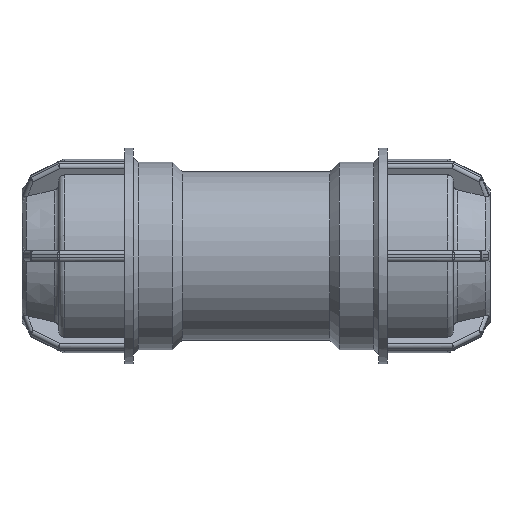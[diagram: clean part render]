
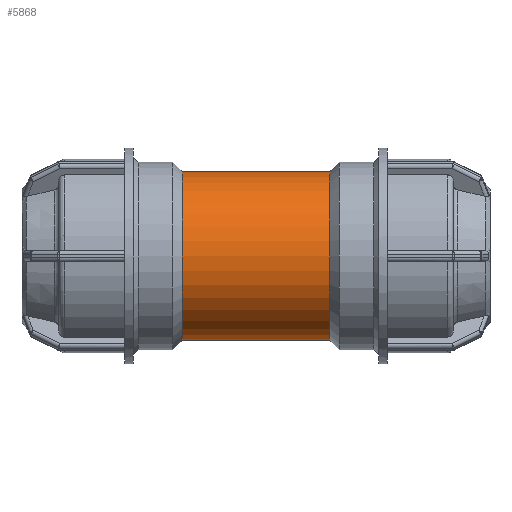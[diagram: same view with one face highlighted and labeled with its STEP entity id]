
A CAD part, front view. The second image highlights one B-rep face of the part: STEP entity #5868.
In plain terms, the highlighted cylindrical face has radius 36 mm (diameter 72 mm), a full revolution.
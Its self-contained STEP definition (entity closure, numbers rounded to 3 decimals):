
#1047=B_SPLINE_CURVE_WITH_KNOTS('',3,(#8914,#8915,#8916,#8917,#8918,#8919,
#8920,#8921,#8922,#8923,#8924,#8925,#8926,#8927,#8928,#8929,#8930,#8931,
#8932,#8933,#8934,#8935,#8936,#8937,#8938,#8939,#8940,#8941,#8942,#8943,
#8944,#8945,#8946,#8947,#8948,#8949,#8950,#8951,#8952,#8953,#8954,#8955,
#8956,#8957,#8958,#8959,#8960,#8961,#8962,#8963,#8964,#8965,#8966,#8967,
#8968,#8969,#8970,#8971,#8972,#8973,#8974,#8975,#8976,#8977,#8978,#8979),
 .UNSPECIFIED.,.T.,.F.,(4,2,2,2,2,2,2,2,2,2,2,2,2,2,2,2,2,2,2,2,2,2,2,2,
2,2,2,2,2,2,2,2,4),(0.,0.458,0.917,1.375,
1.833,2.287,2.741,3.195,3.649,
4.103,4.557,5.011,5.465,5.923,
6.381,6.84,7.298,7.756,8.215,
8.673,9.131,9.585,10.039,10.493,
10.947,11.401,11.855,12.309,12.763,
13.221,13.679,14.138,14.596),
 .UNSPECIFIED.);
#1229=FACE_BOUND('',#1680,.T.);
#1230=FACE_BOUND('',#1681,.T.);
#1269=FACE_OUTER_BOUND('',#1679,.T.);
#1679=EDGE_LOOP('',(#3924));
#1680=EDGE_LOOP('',(#3925));
#1681=EDGE_LOOP('',(#3926));
#2129=CIRCLE('',#6281,36.);
#2130=CIRCLE('',#6282,36.);
#2474=VERTEX_POINT('',#8909);
#2475=VERTEX_POINT('',#8911);
#2476=VERTEX_POINT('',#8913);
#3013=EDGE_CURVE('',#2474,#2474,#2129,.T.);
#3014=EDGE_CURVE('',#2475,#2475,#2130,.T.);
#3015=EDGE_CURVE('',#2476,#2476,#1047,.T.);
#3924=ORIENTED_EDGE('',*,*,#3013,.F.);
#3925=ORIENTED_EDGE('',*,*,#3014,.T.);
#3926=ORIENTED_EDGE('',*,*,#3015,.F.);
#5746=CYLINDRICAL_SURFACE('',#6280,36.);
#5868=ADVANCED_FACE('',(#1269,#1229,#1230),#5746,.T.);
#6280=AXIS2_PLACEMENT_3D('',#8908,#7037,#7038);
#6281=AXIS2_PLACEMENT_3D('',#8910,#7039,#7040);
#6282=AXIS2_PLACEMENT_3D('',#8912,#7041,#7042);
#7037=DIRECTION('center_axis',(1.,0.,0.));
#7038=DIRECTION('ref_axis',(0.,1.,0.));
#7039=DIRECTION('center_axis',(1.,0.,0.));
#7040=DIRECTION('ref_axis',(0.,0.,-1.));
#7041=DIRECTION('center_axis',(1.,0.,0.));
#7042=DIRECTION('ref_axis',(0.,0.,-1.));
#8908=CARTESIAN_POINT('Origin',(15.8,0.,0.));
#8909=CARTESIAN_POINT('',(31.6,36.,0.));
#8910=CARTESIAN_POINT('Origin',(31.6,0.,0.));
#8911=CARTESIAN_POINT('',(-31.6,36.,0.));
#8912=CARTESIAN_POINT('Origin',(-31.6,0.,0.));
#8913=CARTESIAN_POINT('',(0.,27.426,23.319));
#8914=CARTESIAN_POINT('Ctrl Pts',(0.,27.426,23.319));
#8915=CARTESIAN_POINT('Ctrl Pts',(1.528,27.426,23.319));
#8916=CARTESIAN_POINT('Ctrl Pts',(3.082,27.558,23.167));
#8917=CARTESIAN_POINT('Ctrl Pts',(6.133,28.064,22.552));
#8918=CARTESIAN_POINT('Ctrl Pts',(7.631,28.436,22.09));
#8919=CARTESIAN_POINT('Ctrl Pts',(10.479,29.329,20.89));
#8920=CARTESIAN_POINT('Ctrl Pts',(11.832,29.849,20.151));
#8921=CARTESIAN_POINT('Ctrl Pts',(14.33,30.924,18.459));
#8922=CARTESIAN_POINT('Ctrl Pts',(15.474,31.479,17.504));
#8923=CARTESIAN_POINT('Ctrl Pts',(17.495,32.52,15.484));
#8924=CARTESIAN_POINT('Ctrl Pts',(18.447,33.046,14.345));
#8925=CARTESIAN_POINT('Ctrl Pts',(20.143,34.022,11.846));
#8926=CARTESIAN_POINT('Ctrl Pts',(20.886,34.471,10.486));
#8927=CARTESIAN_POINT('Ctrl Pts',(22.092,35.214,7.625));
#8928=CARTESIAN_POINT('Ctrl Pts',(22.556,35.51,6.119));
#8929=CARTESIAN_POINT('Ctrl Pts',(23.17,35.902,3.064));
#8930=CARTESIAN_POINT('Ctrl Pts',(23.319,36.,1.513));
#8931=CARTESIAN_POINT('Ctrl Pts',(23.319,36.,-1.513));
#8932=CARTESIAN_POINT('Ctrl Pts',(23.17,35.902,-3.064));
#8933=CARTESIAN_POINT('Ctrl Pts',(22.556,35.51,-6.119));
#8934=CARTESIAN_POINT('Ctrl Pts',(22.092,35.214,-7.625));
#8935=CARTESIAN_POINT('Ctrl Pts',(20.886,34.471,-10.486));
#8936=CARTESIAN_POINT('Ctrl Pts',(20.143,34.022,-11.846));
#8937=CARTESIAN_POINT('Ctrl Pts',(18.447,33.046,-14.345));
#8938=CARTESIAN_POINT('Ctrl Pts',(17.495,32.52,-15.484));
#8939=CARTESIAN_POINT('Ctrl Pts',(15.474,31.479,-17.504));
#8940=CARTESIAN_POINT('Ctrl Pts',(14.33,30.924,-18.459));
#8941=CARTESIAN_POINT('Ctrl Pts',(11.832,29.849,-20.151));
#8942=CARTESIAN_POINT('Ctrl Pts',(10.479,29.329,-20.89));
#8943=CARTESIAN_POINT('Ctrl Pts',(7.631,28.436,-22.09));
#8944=CARTESIAN_POINT('Ctrl Pts',(6.133,28.064,-22.552));
#8945=CARTESIAN_POINT('Ctrl Pts',(3.082,27.558,-23.167));
#8946=CARTESIAN_POINT('Ctrl Pts',(1.528,27.426,-23.319));
#8947=CARTESIAN_POINT('Ctrl Pts',(-1.528,27.426,-23.319));
#8948=CARTESIAN_POINT('Ctrl Pts',(-3.082,27.558,-23.167));
#8949=CARTESIAN_POINT('Ctrl Pts',(-6.133,28.064,-22.552));
#8950=CARTESIAN_POINT('Ctrl Pts',(-7.631,28.436,-22.09));
#8951=CARTESIAN_POINT('Ctrl Pts',(-10.479,29.329,-20.89));
#8952=CARTESIAN_POINT('Ctrl Pts',(-11.832,29.849,-20.151));
#8953=CARTESIAN_POINT('Ctrl Pts',(-14.33,30.924,-18.459));
#8954=CARTESIAN_POINT('Ctrl Pts',(-15.474,31.479,-17.504));
#8955=CARTESIAN_POINT('Ctrl Pts',(-17.495,32.52,-15.484));
#8956=CARTESIAN_POINT('Ctrl Pts',(-18.447,33.046,-14.345));
#8957=CARTESIAN_POINT('Ctrl Pts',(-20.143,34.022,-11.846));
#8958=CARTESIAN_POINT('Ctrl Pts',(-20.886,34.471,-10.486));
#8959=CARTESIAN_POINT('Ctrl Pts',(-22.092,35.214,-7.625));
#8960=CARTESIAN_POINT('Ctrl Pts',(-22.556,35.51,-6.119));
#8961=CARTESIAN_POINT('Ctrl Pts',(-23.17,35.902,-3.064));
#8962=CARTESIAN_POINT('Ctrl Pts',(-23.319,36.,-1.513));
#8963=CARTESIAN_POINT('Ctrl Pts',(-23.319,36.,1.513));
#8964=CARTESIAN_POINT('Ctrl Pts',(-23.17,35.902,3.064));
#8965=CARTESIAN_POINT('Ctrl Pts',(-22.556,35.51,6.119));
#8966=CARTESIAN_POINT('Ctrl Pts',(-22.092,35.214,7.625));
#8967=CARTESIAN_POINT('Ctrl Pts',(-20.886,34.471,10.486));
#8968=CARTESIAN_POINT('Ctrl Pts',(-20.143,34.022,11.846));
#8969=CARTESIAN_POINT('Ctrl Pts',(-18.447,33.046,14.345));
#8970=CARTESIAN_POINT('Ctrl Pts',(-17.495,32.52,15.484));
#8971=CARTESIAN_POINT('Ctrl Pts',(-15.474,31.479,17.504));
#8972=CARTESIAN_POINT('Ctrl Pts',(-14.33,30.924,18.459));
#8973=CARTESIAN_POINT('Ctrl Pts',(-11.832,29.849,20.151));
#8974=CARTESIAN_POINT('Ctrl Pts',(-10.479,29.329,20.89));
#8975=CARTESIAN_POINT('Ctrl Pts',(-7.631,28.436,22.09));
#8976=CARTESIAN_POINT('Ctrl Pts',(-6.133,28.064,22.552));
#8977=CARTESIAN_POINT('Ctrl Pts',(-3.082,27.558,23.167));
#8978=CARTESIAN_POINT('Ctrl Pts',(-1.528,27.426,23.319));
#8979=CARTESIAN_POINT('Ctrl Pts',(0.,27.426,
23.319));
